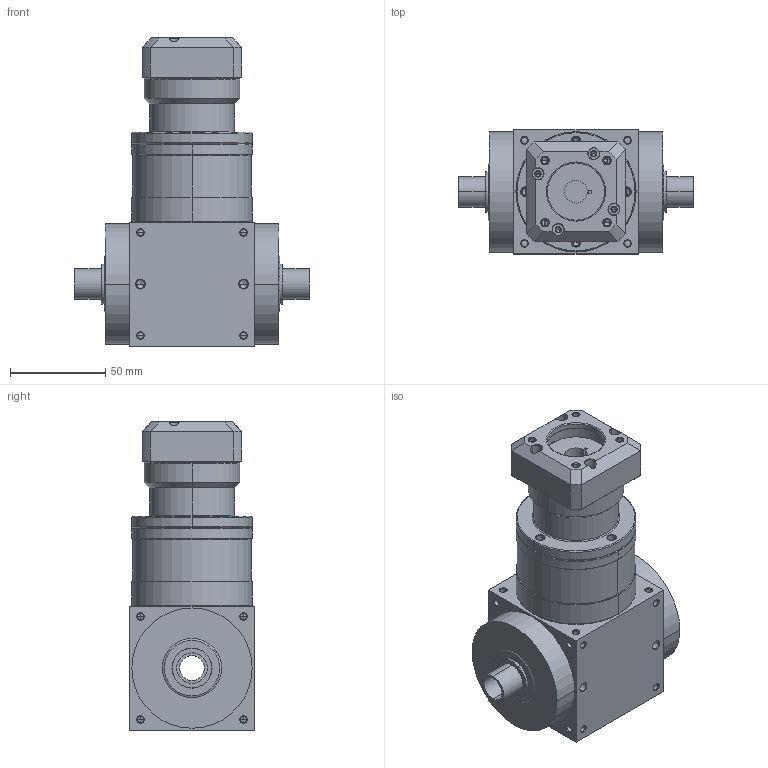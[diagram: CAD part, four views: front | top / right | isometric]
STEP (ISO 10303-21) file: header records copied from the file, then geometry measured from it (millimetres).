
FILE_DESCRIPTION((''),'2;1');
FILE_NAME('AT065FC2-P0405100202_ASM','2009-02-05T',('d00176'),(''),'PRO/ENGINEER BY PARAMETRIC TECHNOLOGY CORPORATION, 2006170','PRO/ENGINEER BY PARAMETRIC TECHNOLOGY CORPORATION, 2006170','');
FILE_SCHEMA(('CONFIG_CONTROL_DESIGN'));
Length unit declared in the file: millimetre
Products named in the file (5): ATFC-HOUSING-2-2; P1801200001; P0226200001; P0405100202; AT065FC2-P0405100202_ASM
Assembly tree (4 placements, depth 2):
  AT065FC2-P0405100202_ASM
    ATFC-HOUSING-2-2
    P1801200001
    P0226200001
    P0405100202
Bounding box: 123 x 65 x 161.5 mm (x, y, z)
Volume: 548726.2 mm3; surface area: 100217.5 mm2
Topology: 4 solids, 40 shells, 725 faces, 1768 edges, 1048 vertices
Faces by surface type: cylinder 320, cone 258, plane 101, torus 42, bspline 4
Entity records: 21741 total; most frequent: CARTESIAN_POINT 4620, DIRECTION 3866, ORIENTED_EDGE 3232, EDGE_CURVE 1688, AXIS2_PLACEMENT_3D 1622, VERTEX_POINT 1048, CIRCLE 884, EDGE_LOOP 868
